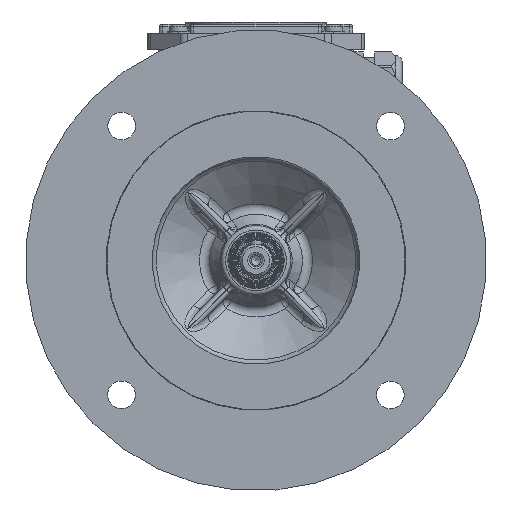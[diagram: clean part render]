
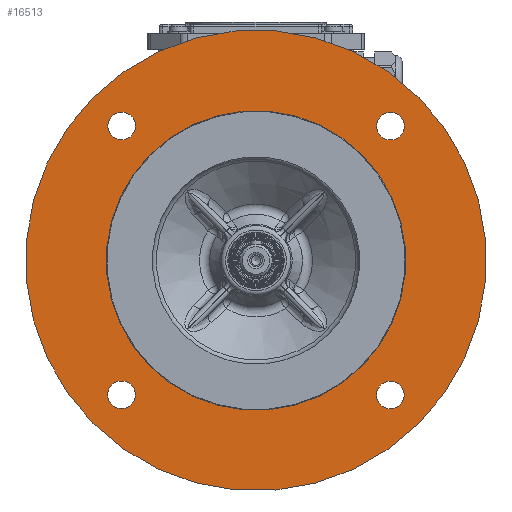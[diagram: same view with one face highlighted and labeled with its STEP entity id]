
A CAD part, front view. The second image highlights one B-rep face of the part: STEP entity #16513.
In plain terms, the highlighted planar face has unit normal (0, -1, 0).
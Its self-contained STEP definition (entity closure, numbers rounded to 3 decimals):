
#13495=PLANE('',#54959);
#16513=ADVANCED_FACE('',(#18762,#18763,#18764,#18765,#18766,#18767),#13495,
 .T.);
#18762=FACE_BOUND('',#21188,.T.);
#18763=FACE_BOUND('',#21189,.T.);
#18764=FACE_BOUND('',#21190,.T.);
#18765=FACE_BOUND('',#21191,.T.);
#18766=FACE_BOUND('',#21192,.T.);
#18767=FACE_BOUND('',#21193,.T.);
#21188=EDGE_LOOP('',(#30262));
#21189=EDGE_LOOP('',(#30263));
#21190=EDGE_LOOP('',(#30264));
#21191=EDGE_LOOP('',(#30265));
#21192=EDGE_LOOP('',(#30266));
#21193=EDGE_LOOP('',(#30267));
#30262=ORIENTED_EDGE('',*,*,#46157,.F.);
#30263=ORIENTED_EDGE('',*,*,#46158,.F.);
#30264=ORIENTED_EDGE('',*,*,#46159,.F.);
#30265=ORIENTED_EDGE('',*,*,#46160,.F.);
#30266=ORIENTED_EDGE('',*,*,#46161,.T.);
#30267=ORIENTED_EDGE('',*,*,#46156,.T.);
#40016=VERTEX_POINT('',#92339);
#40017=VERTEX_POINT('',#92342);
#40018=VERTEX_POINT('',#92344);
#40019=VERTEX_POINT('',#92346);
#40020=VERTEX_POINT('',#92348);
#40021=VERTEX_POINT('',#92350);
#46156=EDGE_CURVE('',#40016,#40016,#51078,.T.);
#46157=EDGE_CURVE('',#40017,#40017,#51079,.T.);
#46158=EDGE_CURVE('',#40018,#40018,#51080,.T.);
#46159=EDGE_CURVE('',#40019,#40019,#51081,.T.);
#46160=EDGE_CURVE('',#40020,#40020,#51082,.T.);
#46161=EDGE_CURVE('',#40021,#40021,#51083,.T.);
#51078=CIRCLE('',#54952,65.);
#51079=CIRCLE('',#54954,6.);
#51080=CIRCLE('',#54955,6.);
#51081=CIRCLE('',#54956,6.);
#51082=CIRCLE('',#54957,6.);
#51083=CIRCLE('',#54958,100.);
#54952=AXIS2_PLACEMENT_3D('',#92338,#63869,#63870);
#54954=AXIS2_PLACEMENT_3D('',#92341,#63873,#63874);
#54955=AXIS2_PLACEMENT_3D('',#92343,#63875,#63876);
#54956=AXIS2_PLACEMENT_3D('',#92345,#63877,#63878);
#54957=AXIS2_PLACEMENT_3D('',#92347,#63879,#63880);
#54958=AXIS2_PLACEMENT_3D('',#92349,#63881,#63882);
#54959=AXIS2_PLACEMENT_3D('',#92351,#63883,#63884);
#63869=DIRECTION('',(0.,1.,0.));
#63870=DIRECTION('',(0.707,0.,-0.708));
#63873=DIRECTION('',(0.,-1.,0.));
#63874=DIRECTION('',(0.708,0.,0.707));
#63875=DIRECTION('',(0.,-1.,0.));
#63876=DIRECTION('',(-0.707,0.,0.708));
#63877=DIRECTION('',(0.,-1.,0.));
#63878=DIRECTION('',(-0.708,0.,-0.707));
#63879=DIRECTION('',(0.,-1.,0.));
#63880=DIRECTION('',(0.707,0.,-0.708));
#63881=DIRECTION('',(0.,-1.,0.));
#63882=DIRECTION('',(0.707,0.,-0.708));
#63883=DIRECTION('',(0.,-1.,0.));
#63884=DIRECTION('',(-0.707,0.,0.708));
#92338=CARTESIAN_POINT('',(0.,-47.,0.));
#92339=CARTESIAN_POINT('',(45.934,-47.,-45.99));
#92341=CARTESIAN_POINT('',(-58.301,-47.,58.372));
#92342=CARTESIAN_POINT('',(-54.056,-47.,62.612));
#92343=CARTESIAN_POINT('',(-58.372,-47.,-58.301));
#92344=CARTESIAN_POINT('',(-62.612,-47.,-54.056));
#92345=CARTESIAN_POINT('',(58.301,-47.,-58.372));
#92346=CARTESIAN_POINT('',(54.056,-47.,-62.612));
#92347=CARTESIAN_POINT('',(58.372,-47.,58.301));
#92348=CARTESIAN_POINT('',(62.612,-47.,54.056));
#92349=CARTESIAN_POINT('',(0.,-47.,0.));
#92350=CARTESIAN_POINT('',(70.668,-47.,-70.754));
#92351=CARTESIAN_POINT('',(0.,-47.,0.));
